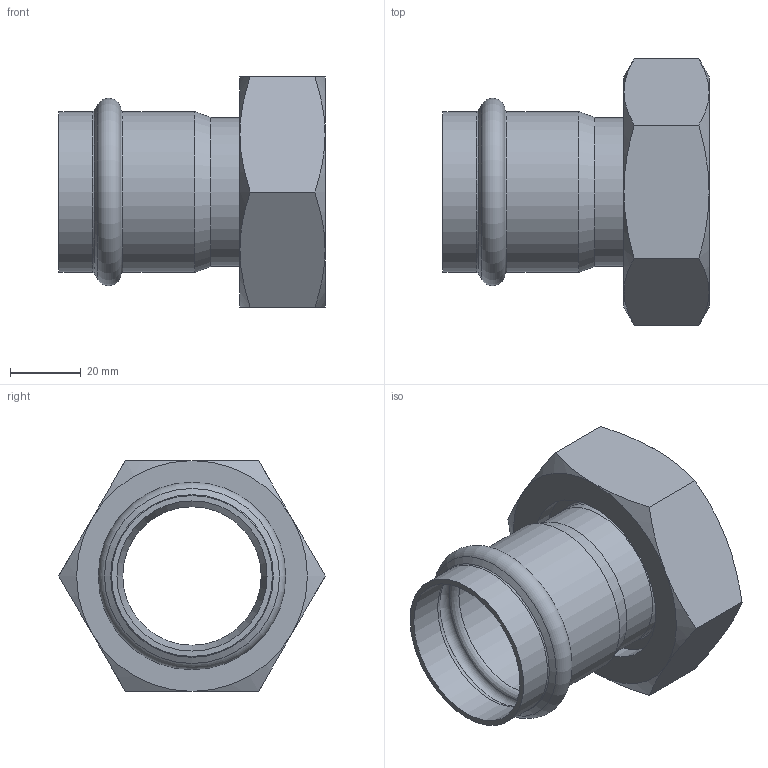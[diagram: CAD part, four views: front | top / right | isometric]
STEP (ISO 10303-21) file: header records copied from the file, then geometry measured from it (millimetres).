
FILE_DESCRIPTION((''),'2;1');
FILE_NAME('G:\Nirosan-Schmiedefeld\Technics\CAD\001 Serie 9.000\042\69359m422h(0).stp','2018-10-16T11:06:03',('herberg'),(''),'Autodesk Inventor 2009','Autodesk Inventor 2009','');
FILE_SCHEMA(('AUTOMOTIVE_DESIGN { 1 0 10303 214 1 1 1 1 }'));
Products named in the file (5): 69359m422h(0); 69HM42p(0); R422(0); FD_5542_EPDM(0); 69MS542p(0)
Assembly tree (4 placements, depth 2):
  69359m422h(0)
    69HM42p(0)
    R422(0)
    FD_5542_EPDM(0)
    69MS542p(0)
Bounding box: 75 x 75.06 x 65 mm (x, y, z)
Volume: 48852.3 mm3; surface area: 35686.7 mm2
Topology: 4 solids, 4 shells, 54 faces, 106 edges, 62 vertices
Faces by surface type: cone 18, plane 15, cylinder 11, bspline 8, torus 2
Full cylindrical faces by diameter (mm): 39 x2, 42 x3, 42.3 x2, 45.3 x2, 55 x2
Entity records: 1586 total; most frequent: CARTESIAN_POINT 504, DIRECTION 210, ORIENTED_EDGE 154, AXIS2_PLACEMENT_3D 102, EDGE_LOOP 90, EDGE_CURVE 77, VERTEX_POINT 59, FACE_OUTER_BOUND 54
